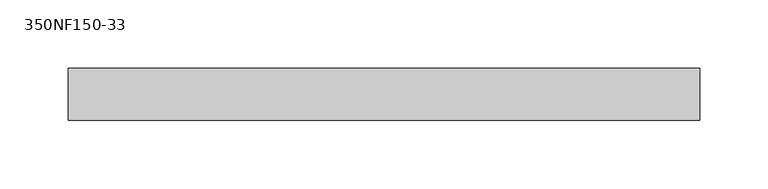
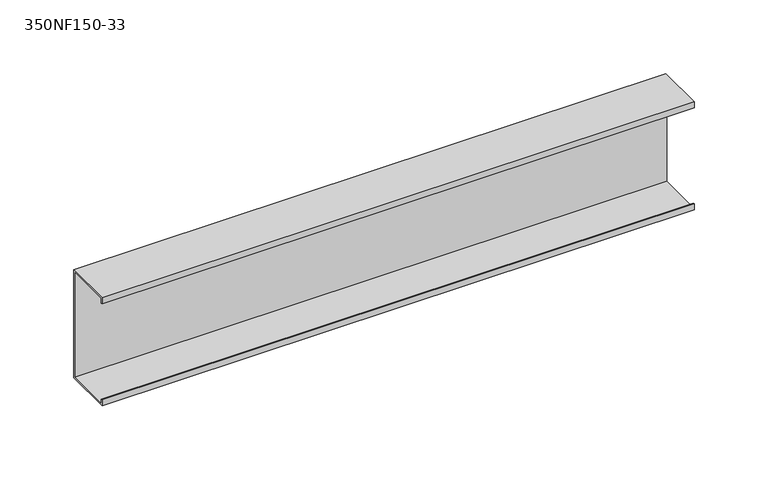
"""IFC4 building model written with IfcOpenShell, lengths in millimetres: beam geometry, BIMSF-SSMA-S : 350NF150-33."""

from ifc_helpers import new_model, si_unit, frame, origin, place, context, project, spatial, polyline, outline, extrude, source, transform, mapped, element, save


def beam_350nf150_33_bf93f831(model_context):
    return source(origin(), model_context, "Body", "SweptSolid", [
        extrude(outline(polyline([(19.05, 44.45), (19.05, -44.45), (-19.05, -44.45), (-19.05, -39.6748), (-18.1676842, -39.6748), (-18.1676842, -43.5676842), (18.1676842, -43.5676842), (18.1676842, 43.5676842), (-18.1676842, 43.5676842), (-18.1676842, 39.6748), (-19.05, 39.6748), (-19.05, 44.45), (19.05, 44.45)])), frame((-231.0429857, 0.0, 0.0), z_axis=(1.0, 0.0, 0.0), x_axis=(0.0, 1.0, 0.0)), (0.0, 0.0, 1.0), 462.0859713),
    ])


if __name__ == "__main__":
    model = new_model("IFC4")
    model_context = context("Model", 3, world=origin())
    ifc_project = project(units=[si_unit("LENGTHUNIT", "METRE", prefix="MILLI")], contexts=[model_context])
    site = spatial("IfcSite", under=ifc_project)
    building = spatial("IfcBuilding", under=site)
    placement = place(None, origin())
    beam_350nf150_33_shape = beam_350nf150_33_bf93f831(model_context)
    element("IfcBeam", 1, ObjectType="BIMSF-SSMA-S : 350NF150-33", at=placement, inside=building, context=model_context, shape_type="MappedRepresentation", body=[
        mapped(beam_350nf150_33_shape, transform((0.0, 0.0, 0.0), x_axis=(1.0, 0.0, 0.0), y_axis=(0.0, 1.0, 0.0), z_axis=(0.0, 0.0, 1.0))),
    ])
    save(model, "model.ifc")
